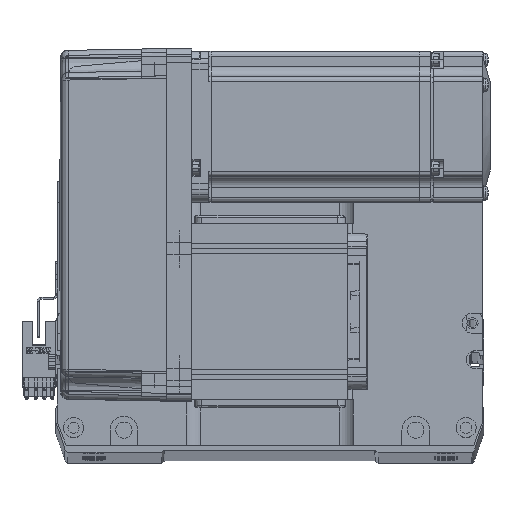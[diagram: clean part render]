
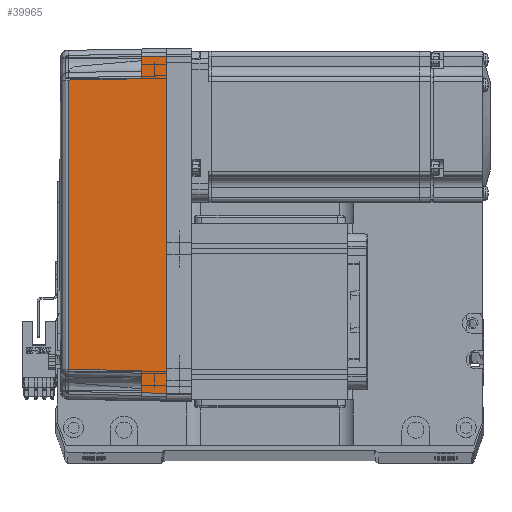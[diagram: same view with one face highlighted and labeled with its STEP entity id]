
A CAD part, top view. The second image highlights one B-rep face of the part: STEP entity #39965.
In plain terms, the highlighted planar face has unit normal (-0.018, 0, 1) as drawn and (0, 1, 0.017) by its records, which use the part's own axes.
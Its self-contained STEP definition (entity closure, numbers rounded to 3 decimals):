
#1118 = EDGE_CURVE ( 'NONE', #16673, #54787, #51498, .T. ) ;
#1826 = VECTOR ( 'NONE', #14663, 1000. ) ;
#3389 = CARTESIAN_POINT ( 'NONE',  ( 70., 35.825, 10. ) ) ;
#4973 = ORIENTED_EDGE ( 'NONE', *, *, #53639, .T. ) ;
#7902 = EDGE_CURVE ( 'NONE', #51095, #8401, #11142, .T. ) ;
#8357 = VECTOR ( 'NONE', #63161, 1000. ) ;
#8401 = VERTEX_POINT ( 'NONE', #10151 ) ;
#8867 = ORIENTED_EDGE ( 'NONE', *, *, #7902, .T. ) ;
#10151 = CARTESIAN_POINT ( 'NONE',  ( -66.826, 35.825, 10. ) ) ;
#11142 = LINE ( 'NONE', #54668, #64096 ) ;
#11286 = B_SPLINE_CURVE_WITH_KNOTS ( 'NONE', 3,
 ( #61918, #45257, #56158, #45970 ),
 .UNSPECIFIED., .F., .F.,
 ( 4, 4 ),
 ( 0., 1. ),
 .UNSPECIFIED. ) ;
#12369 = CARTESIAN_POINT ( 'NONE',  ( -67., 36., 0. ) ) ;
#13659 = VERTEX_POINT ( 'NONE', #41483 ) ;
#13914 = CARTESIAN_POINT ( 'NONE',  ( 58., 35.825, 10. ) ) ;
#13954 = ORIENTED_EDGE ( 'NONE', *, *, #64543, .F. ) ;
#14150 = ORIENTED_EDGE ( 'NONE', *, *, #1118, .T. ) ;
#14663 = DIRECTION ( 'NONE',  ( 1., 0., 0. ) ) ;
#15395 = ORIENTED_EDGE ( 'NONE', *, *, #52944, .T. ) ;
#16673 = VERTEX_POINT ( 'NONE', #13914 ) ;
#18293 = VECTOR ( 'NONE', #32773, 1000. ) ;
#21434 = LINE ( 'NONE', #61085, #41285 ) ;
#22944 = DIRECTION ( 'NONE',  ( 1., 0., 0. ) ) ;
#25733 = VERTEX_POINT ( 'NONE', #65975 ) ;
#28614 = CARTESIAN_POINT ( 'NONE',  ( -58., 35.825, 10. ) ) ;
#29460 = DIRECTION ( 'NONE',  ( 0.017, 0.017, -1. ) ) ;
#29632 = LINE ( 'NONE', #40777, #64414 ) ;
#32297 = LINE ( 'NONE', #28614, #18293 ) ;
#32773 = DIRECTION ( 'NONE',  ( 0.017, -0.017, 1. ) ) ;
#34640 = CARTESIAN_POINT ( 'NONE',  ( 70., 36., 0. ) ) ;
#34855 = DIRECTION ( 'NONE',  ( 0., 1., 0.017 ) ) ;
#35321 = ORIENTED_EDGE ( 'NONE', *, *, #39072, .T. ) ;
#37027 = CARTESIAN_POINT ( 'NONE',  ( 67.001, 36.001, -0.052 ) ) ;
#37193 = EDGE_CURVE ( 'NONE', #38705, #13659, #32297, .T. ) ;
#38705 = VERTEX_POINT ( 'NONE', #47948 ) ;
#39072 = EDGE_CURVE ( 'NONE', #39634, #16673, #29632, .T. ) ;
#39105 = CARTESIAN_POINT ( 'NONE',  ( 0., 36., 0. ) ) ;
#39634 = VERTEX_POINT ( 'NONE', #56034 ) ;
#39708 = PLANE ( 'NONE',  #44227 ) ;
#39965 = ADVANCED_FACE ( 'NONE', ( #47746 ), #39708, .T. ) ;
#40777 = CARTESIAN_POINT ( 'NONE',  ( 57.495, 35.32, 38.985 ) ) ;
#41285 = VECTOR ( 'NONE', #66634, 1000. ) ;
#41483 = CARTESIAN_POINT ( 'NONE',  ( -57.495, 35.32, 38.985 ) ) ;
#43048 = LINE ( 'NONE', #37027, #8357 ) ;
#44227 = AXIS2_PLACEMENT_3D ( 'NONE', #34640, #34855, #45027 ) ;
#45010 = EDGE_CURVE ( 'NONE', #51095, #25733, #67468, .T. ) ;
#45027 = DIRECTION ( 'NONE',  ( 0., -0.017, 1. ) ) ;
#45257 = CARTESIAN_POINT ( 'NONE',  ( -19.165, 35.316, 39.181 ) ) ;
#45970 = CARTESIAN_POINT ( 'NONE',  ( 57.495, 35.32, 38.985 ) ) ;
#47746 = FACE_OUTER_BOUND ( 'NONE', #66928, .T. ) ;
#47948 = CARTESIAN_POINT ( 'NONE',  ( -58., 35.825, 10. ) ) ;
#50642 = CARTESIAN_POINT ( 'NONE',  ( 66.826, 35.825, 10. ) ) ;
#51095 = VERTEX_POINT ( 'NONE', #12369 ) ;
#51498 = LINE ( 'NONE', #3389, #1826 ) ;
#51776 = VECTOR ( 'NONE', #22944, 1000. ) ;
#52944 = EDGE_CURVE ( 'NONE', #8401, #38705, #21434, .T. ) ;
#53639 = EDGE_CURVE ( 'NONE', #13659, #39634, #11286, .T. ) ;
#54668 = CARTESIAN_POINT ( 'NONE',  ( -67., 36., 0. ) ) ;
#54787 = VERTEX_POINT ( 'NONE', #50642 ) ;
#56034 = CARTESIAN_POINT ( 'NONE',  ( 57.495, 35.32, 38.985 ) ) ;
#56158 = CARTESIAN_POINT ( 'NONE',  ( 19.165, 35.316, 39.181 ) ) ;
#56645 = ORIENTED_EDGE ( 'NONE', *, *, #37193, .T. ) ;
#60217 = DIRECTION ( 'NONE',  ( 0.017, -0.017, 1. ) ) ;
#61085 = CARTESIAN_POINT ( 'NONE',  ( 70., 35.825, 10. ) ) ;
#61918 = CARTESIAN_POINT ( 'NONE',  ( -57.495, 35.32, 38.985 ) ) ;
#62012 = ORIENTED_EDGE ( 'NONE', *, *, #45010, .F. ) ;
#63161 = DIRECTION ( 'NONE',  ( -0.017, -0.017, 1. ) ) ;
#64096 = VECTOR ( 'NONE', #60217, 1000. ) ;
#64414 = VECTOR ( 'NONE', #29460, 1000. ) ;
#64543 = EDGE_CURVE ( 'NONE', #25733, #54787, #43048, .T. ) ;
#65975 = CARTESIAN_POINT ( 'NONE',  ( 67., 36., 0. ) ) ;
#66634 = DIRECTION ( 'NONE',  ( 1., 0., 0. ) ) ;
#66928 = EDGE_LOOP ( 'NONE', ( #8867, #15395, #56645, #4973, #35321, #14150, #13954, #62012 ) ) ;
#67468 = LINE ( 'NONE', #39105, #51776 ) ;
